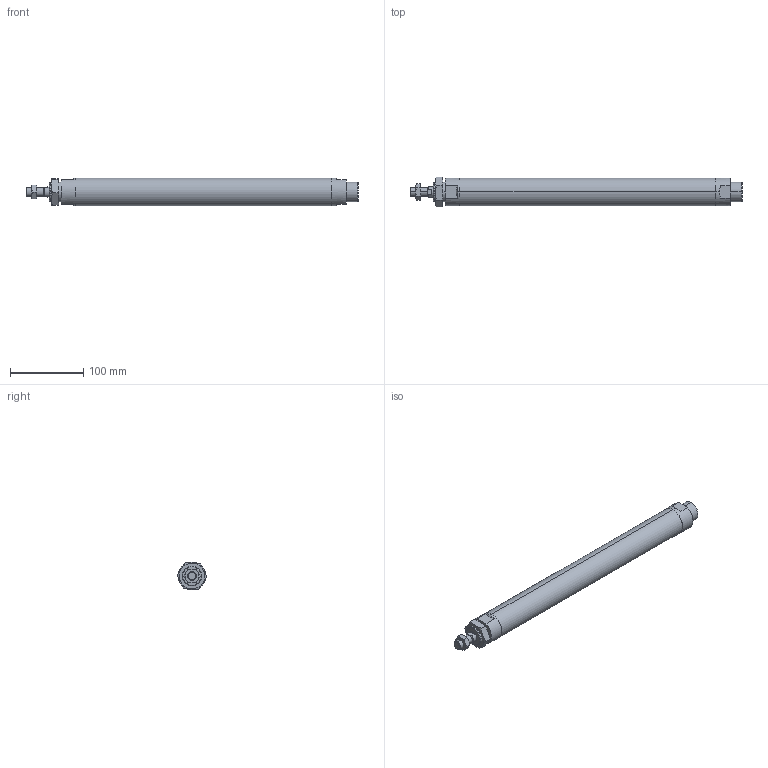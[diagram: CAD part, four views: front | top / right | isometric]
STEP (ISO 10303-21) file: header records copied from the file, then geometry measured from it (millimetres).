
FILE_DESCRIPTION (( 'STEP AP203' ), '1' );
FILE_NAME ('J#2-32-300-N.STEP', '2016-03-08T07:52:20', ( '' ), ( '' ), 'SwSTEP 2.0', 'SolidWorks 2014', '' );
FILE_SCHEMA (( 'CONFIG_CONTROL_DESIGN' ));
Length unit declared in the file: millimetre
Products named in the file (4): J#2-32-300-N; J#2-32-300
Assembly tree (3 placements, depth 2):
  J#2-32-300-N
    J#2-32-300
    (unnamed)
    (unnamed)
Bounding box: 453 x 40.33 x 38 mm (x, y, z)
Volume: 458010.2 mm3; surface area: 57459.4 mm2
Topology: 3 solids, 3 shells, 94 faces, 210 edges, 125 vertices
Faces by surface type: plane 33, torus 24, cylinder 22, cone 15
Entity records: 3451 total; most frequent: CARTESIAN_POINT 1038, DIRECTION 421, ORIENTED_EDGE 412, EDGE_CURVE 206, AXIS2_PLACEMENT_3D 178, VERTEX_POINT 125, EDGE_LOOP 105, FACE_OUTER_BOUND 94
